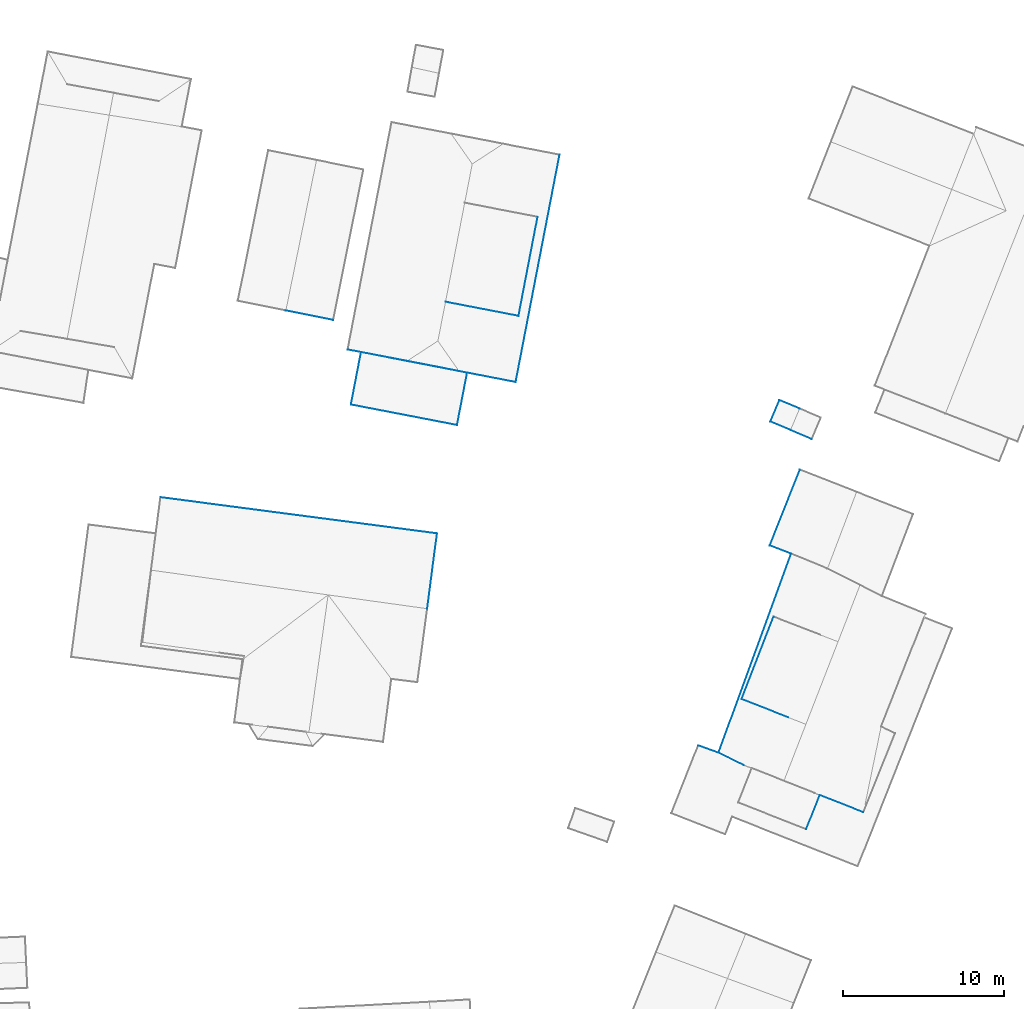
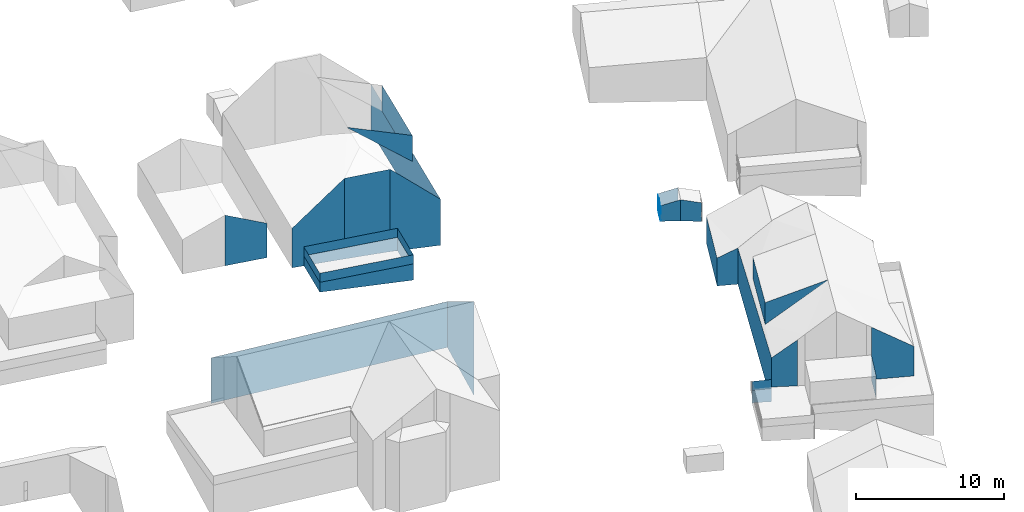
# Not in any storey, part 31 of 57: 36 walls.
"""IFC4 building model written with IfcOpenShell, lengths in metres."""

from ifc_helpers import new_model, entity, si_unit, converted_unit, frame, origin, place, context, subcontext, project, spatial, face_set, surface_model, element, save


model = new_model("IFC4")

# Units and contexts
model_context = context("Model", 3, precision=1e-05, world=origin())
body_context = subcontext(model_context, "Body", "Model", "MODEL_VIEW")
ifc_project = project(units=[converted_unit("PLANEANGLEUNIT", "DEGREE", entity("IfcRatioMeasure", 0.0174532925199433), si_unit("PLANEANGLEUNIT", "RADIAN"), dimensions=[0, 0, 0, 0, 0, 0, 0]), si_unit("AREAUNIT", "SQUARE_METRE"), si_unit("LENGTHUNIT", "METRE")], contexts=[model_context])

# Site, building
site_placement = place(None, origin())
site = spatial("IfcSite", under=ifc_project, at=site_placement, Name="_site")
building_1_placement = place(site_placement, origin())
building_1 = spatial("IfcBuilding", under=site, at=building_1_placement, Name="_building")

# Walls
wall_1_placement = place(building_1_placement, origin())
element("IfcWall", 1, at=wall_1_placement, inside=building_1, Name="Wall", PredefinedType="NOTDEFINED", context=body_context, shape_type="SurfaceModel", body=[
    surface_model("IfcFaceBasedSurfaceModel", [(247.115, 108.848, 116.72), (243.898, 109.473, 116.72), (243.898, 109.473, 110.073), (247.115, 108.848, 109.924)], [face_set([[[0, 1, 2, 3]]])]),
])
wall_2_placement = place(building_1_placement, origin())
element("IfcWall", 2, at=wall_2_placement, inside=building_1, Name="Wall", PredefinedType="NOTDEFINED", context=body_context, shape_type="SurfaceModel", body=[
    surface_model("IfcFaceBasedSurfaceModel", [(240.423, 106.773, 110.99), (241.049, 110.02, 110.99), (241.049, 110.02, 110.188), (240.423, 106.773, 110.184)], [face_set([[[0, 1, 2, 3]]])]),
])
wall_3_placement = place(building_1_placement, origin())
element("IfcWall", 3, at=wall_3_placement, inside=building_1, Name="Wall", PredefinedType="NOTDEFINED", context=body_context, shape_type="SurfaceModel", body=[
    surface_model("IfcFaceBasedSurfaceModel", [(247.623, 108.746, 110.99), (246.997, 105.499, 110.99), (246.997, 105.499, 109.654), (247.623, 108.746, 109.91)], [face_set([[[0, 1, 2, 3]]])]),
])
wall_4_placement = place(building_1_placement, origin())
element("IfcWall", 4, at=wall_4_placement, inside=building_1, Name="Wall", PredefinedType="NOTDEFINED", context=body_context, shape_type="SurfaceModel", body=[
    surface_model("IfcFaceBasedSurfaceModel", [(241.049, 110.02, 110.99), (247.623, 108.746, 110.99), (247.623, 108.746, 109.91), (241.049, 110.02, 110.188)], [face_set([[[0, 1, 2, 3]]])]),
])
wall_5_placement = place(building_1_placement, origin())
element("IfcWall", 5, at=wall_5_placement, inside=building_1, Name="Wall", PredefinedType="NOTDEFINED", context=body_context, shape_type="SurfaceModel", body=[
    surface_model("IfcFaceBasedSurfaceModel", [(250.807, 112.263, 116.15), (246.281, 113.141, 117.86), (246.281, 113.141, 117.81), (250.807, 112.263, 114.004)], [face_set([[[0, 1, 2, 3]]])]),
])
wall_6_placement = place(building_1_placement, origin())
element("IfcWall", 6, at=wall_6_placement, inside=building_1, Name="Wall", PredefinedType="NOTDEFINED", context=body_context, shape_type="SurfaceModel", body=[
    surface_model("IfcFaceBasedSurfaceModel", [(251.992, 118.399, 116.15), (250.807, 112.263, 116.15), (250.807, 112.263, 114.004), (251.992, 118.399, 114.013)], [face_set([[[0, 1, 2, 3]]])]),
])
wall_7_placement = place(building_1_placement, origin())
element("IfcWall", 7, at=wall_7_placement, inside=building_1, Name="Wall", PredefinedType="NOTDEFINED", context=body_context, shape_type="SurfaceModel", body=[
    surface_model("IfcFaceBasedSurfaceModel", [(246.997, 105.499, 110.99), (240.423, 106.773, 110.99), (240.423, 106.773, 110.184), (246.997, 105.499, 109.654)], [face_set([[[0, 1, 2, 3]]])]),
])
wall_8_placement = place(building_1_placement, origin())
element("IfcWall", 8, at=wall_8_placement, inside=building_1, Name="Wall", PredefinedType="NOTDEFINED", context=body_context, shape_type="SurfaceModel", body=[
    surface_model("IfcFaceBasedSurfaceModel", [(243.898, 109.473, 116.72), (240.222, 110.18, 113.45), (240.222, 110.18, 110.194), (243.898, 109.473, 110.073)], [face_set([[[0, 1, 2, 3]]])]),
])
wall_9_placement = place(building_1_placement, origin())
element("IfcWall", 9, at=wall_9_placement, inside=building_1, Name="Wall", PredefinedType="NOTDEFINED", context=body_context, shape_type="SurfaceModel", body=[
    surface_model("IfcFaceBasedSurfaceModel", [(250.631, 108.165, 113.45), (247.115, 108.848, 116.72), (247.115, 108.848, 109.924), (250.631, 108.165, 109.636)], [face_set([[[0, 1, 2, 3]]])]),
])
wall_10_placement = place(building_1_placement, origin())
element("IfcWall", 10, at=wall_10_placement, inside=building_1, Name="Wall", PredefinedType="NOTDEFINED", context=body_context, shape_type="SurfaceModel", body=[
    surface_model("IfcFaceBasedSurfaceModel", [(253.353, 122.25, 113.45), (250.631, 108.165, 113.45), (250.631, 108.165, 109.636), (253.353, 122.25, 109.508)], [face_set([[[0, 1, 2, 3]]])]),
])
wall_11_placement = place(building_1_placement, origin())
element("IfcWall", 11, at=wall_11_placement, inside=building_1, Name="Wall", PredefinedType="NOTDEFINED", context=body_context, shape_type="SurfaceModel", body=[
    surface_model("IfcFaceBasedSurfaceModel", [(240.423, 106.773, 110.99), (241.049, 110.02, 110.99), (241.049, 110.02, 111.74), (240.423, 106.773, 111.74)], [face_set([[[0, 1, 2, 3]]])]),
])
wall_12_placement = place(building_1_placement, origin())
element("IfcWall", 12, at=wall_12_placement, inside=building_1, Name="Wall", PredefinedType="NOTDEFINED", context=body_context, shape_type="SurfaceModel", body=[
    surface_model("IfcFaceBasedSurfaceModel", [(246.997, 105.499, 110.99), (240.423, 106.773, 110.99), (240.423, 106.773, 111.74), (246.997, 105.499, 111.74)], [face_set([[[0, 1, 2, 3]]])]),
])
wall_13_placement = place(building_1_placement, origin())
element("IfcWall", 13, at=wall_13_placement, inside=building_1, Name="Wall", PredefinedType="NOTDEFINED", context=body_context, shape_type="SurfaceModel", body=[
    surface_model("IfcFaceBasedSurfaceModel", [(247.623, 108.746, 110.99), (246.997, 105.499, 110.99), (246.997, 105.499, 111.74), (247.623, 108.746, 111.74)], [face_set([[[0, 1, 2, 3]]])]),
])
wall_14_placement = place(building_1_placement, origin())
element("IfcWall", 14, at=wall_14_placement, inside=building_1, Name="Wall", PredefinedType="NOTDEFINED", context=body_context, shape_type="SurfaceModel", body=[
    surface_model("IfcFaceBasedSurfaceModel", [(241.049, 110.02, 110.99), (247.623, 108.746, 110.99), (247.623, 108.746, 111.74), (241.049, 110.02, 111.74)], [face_set([[[0, 1, 2, 3]]])]),
])
wall_15_placement = place(building_1_placement, origin())
element("IfcWall", 15, at=wall_15_placement, inside=building_1, Name="Wall", PredefinedType="NOTDEFINED", context=body_context, shape_type="SurfaceModel", body=[
    surface_model("IfcFaceBasedSurfaceModel", [(247.623, 108.746, 110.99), (246.997, 105.499, 110.99), (246.997, 105.499, 111.74), (247.623, 108.746, 111.74)], [face_set([[[0, 1, 2, 3]]])]),
])
wall_16_placement = place(building_1_placement, origin())
element("IfcWall", 16, at=wall_16_placement, inside=building_1, Name="Wall", PredefinedType="NOTDEFINED", context=body_context, shape_type="SurfaceModel", body=[
    surface_model("IfcFaceBasedSurfaceModel", [(241.049, 110.02, 110.99), (247.623, 108.746, 110.99), (247.623, 108.746, 111.74), (241.049, 110.02, 111.74)], [face_set([[[0, 1, 2, 3]]])]),
])
wall_17_placement = place(building_1_placement, origin())
element("IfcWall", 17, at=wall_17_placement, inside=building_1, Name="Wall", PredefinedType="NOTDEFINED", context=body_context, shape_type="SurfaceModel", body=[
    surface_model("IfcFaceBasedSurfaceModel", [(240.423, 106.773, 110.99), (241.049, 110.02, 110.99), (241.049, 110.02, 111.74), (240.423, 106.773, 111.74)], [face_set([[[0, 1, 2, 3]]])]),
])
wall_18_placement = place(building_1_placement, origin())
element("IfcWall", 18, at=wall_18_placement, inside=building_1, Name="Wall", PredefinedType="NOTDEFINED", context=body_context, shape_type="SurfaceModel", body=[
    surface_model("IfcFaceBasedSurfaceModel", [(246.997, 105.499, 110.99), (240.423, 106.773, 110.99), (240.423, 106.773, 111.74), (246.997, 105.499, 111.74)], [face_set([[[0, 1, 2, 3]]])]),
])

# Building
building_2_placement = place(site_placement, origin())
building_2 = spatial("IfcBuilding", under=site, at=building_2_placement, Name="_building")

# Walls
wall_19_placement = place(building_2_placement, origin())
element("IfcWall", 19, at=wall_19_placement, inside=building_2, Name="Wall", PredefinedType="NOTDEFINED", context=body_context, shape_type="SurfaceModel", body=[
    surface_model("IfcFaceBasedSurfaceModel", [(245.759, 98.783, 112.39), (245.15, 94.125, 115.44), (245.15, 94.125, 107.674), (245.759, 98.783, 108.605)], [face_set([[[0, 1, 2, 3]]])]),
])
wall_20_placement = place(building_2_placement, origin())
element("IfcWall", 20, at=wall_20_placement, inside=building_2, Name="Wall", PredefinedType="NOTDEFINED", context=body_context, shape_type="SurfaceModel", body=[
    surface_model("IfcFaceBasedSurfaceModel", [(228.621, 101.025, 112.39), (245.759, 98.783, 112.39), (245.759, 98.783, 108.605), (228.621, 101.025, 108.623)], [face_set([[[0, 1, 2, 3]]])]),
])

# Building
building_3_placement = place(site_placement, origin())
building_3 = spatial("IfcBuilding", under=site, at=building_3_placement, Name="_building")

# Walls
wall_21_placement = place(building_3_placement, origin())
element("IfcWall", 21, at=wall_21_placement, inside=building_3, Name="Wall", PredefinedType="NOTDEFINED", context=body_context, shape_type="SurfaceModel", body=[
    surface_model("IfcFaceBasedSurfaceModel", [(272.181, 81.504, 109.92), (269.474, 82.568, 111.81), (269.474, 82.568, 107.48), (272.181, 81.504, 107.48)], [face_set([[[0, 1, 2, 3]]])]),
])
wall_22_placement = place(building_3_placement, origin())
element("IfcWall", 22, at=wall_22_placement, inside=building_3, Name="Wall", PredefinedType="NOTDEFINED", context=body_context, shape_type="SurfaceModel", body=[
    surface_model("IfcFaceBasedSurfaceModel", [(264.775, 84.429, 111.26), (263.202, 85.186, 109.89), (263.202, 85.186, 107.48), (264.775, 84.429, 107.48)], [face_set([[[0, 1, 2, 3]]])]),
])
wall_23_placement = place(building_3_placement, origin())
element("IfcWall", 23, at=wall_23_placement, inside=building_3, Name="Wall", PredefinedType="NOTDEFINED", context=body_context, shape_type="SurfaceModel", body=[
    surface_model("IfcFaceBasedSurfaceModel", [(263.202, 85.186, 109.89), (267.703, 97.529, 109.88), (267.703, 97.529, 106.9), (263.202, 85.186, 106.266)], [face_set([[[0, 1, 2, 3]]])]),
])
wall_24_placement = place(building_3_placement, origin())
element("IfcWall", 24, at=wall_24_placement, inside=building_3, Name="Wall", PredefinedType="NOTDEFINED", context=body_context, shape_type="SurfaceModel", body=[
    surface_model("IfcFaceBasedSurfaceModel", [(264.63, 88.515, 111.92), (266.611, 93.622, 111.92), (266.611, 93.622, 110.16), (264.63, 88.515, 110.121)], [face_set([[[0, 1, 2, 3]]])]),
])
wall_25_placement = place(building_3_placement, origin())
element("IfcWall", 25, at=wall_25_placement, inside=building_3, Name="Wall", PredefinedType="NOTDEFINED", context=body_context, shape_type="SurfaceModel", body=[
    surface_model("IfcFaceBasedSurfaceModel", [(268.616, 86.961, 113.35), (264.63, 88.515, 111.92), (264.63, 88.515, 110.121), (268.616, 86.961, 113.3)], [face_set([[[0, 1, 2, 3]]])]),
])
wall_26_placement = place(building_3_placement, origin())
element("IfcWall", 26, at=wall_26_placement, inside=building_3, Name="Wall", PredefinedType="NOTDEFINED", context=body_context, shape_type="SurfaceModel", body=[
    surface_model("IfcFaceBasedSurfaceModel", [(261.942, 85.646, 107.48), (263.202, 85.186, 107.48), (263.202, 85.186, 106.266), (261.942, 85.646, 106.333)], [face_set([[[0, 1, 2, 3]]])]),
])
wall_27_placement = place(building_3_placement, origin())
element("IfcWall", 27, at=wall_27_placement, inside=building_3, Name="Wall", PredefinedType="NOTDEFINED", context=body_context, shape_type="SurfaceModel", body=[
    surface_model("IfcFaceBasedSurfaceModel", [(269.474, 82.568, 109.51), (268.634, 80.447, 109.32), (268.634, 80.447, 107.48), (269.474, 82.568, 107.48)], [face_set([[[0, 1, 2, 3]]])]),
])
for number, where, name in (
    (28, (0.0, 0.0, 0.0), "Wall"),
    (29, (0.0, 0.0, 0.0), "Wall"),
):
    element("IfcWall", number, at=place(building_3_placement, frame(where)), inside=building_3, Name=name, PredefinedType="NOTDEFINED", context=body_context, shape_type="SurfaceModel", body=[
        surface_model("IfcFaceBasedSurfaceModel", [(263.202, 85.186, 107.35), (261.942, 85.646, 107.35), (261.942, 85.646, 108.1), (263.202, 85.186, 108.1)], [face_set([[[0, 1, 2, 3]]])]),
    ])

# Building
building_4_placement = place(site_placement, origin())
building_4 = spatial("IfcBuilding", under=site, at=building_4_placement, Name="_building")

# Walls
wall_28_placement = place(building_4_placement, origin())
element("IfcWall", 30, at=wall_28_placement, inside=building_4, Name="Wall", PredefinedType="NOTDEFINED", context=body_context, shape_type="SurfaceModel", body=[
    surface_model("IfcFaceBasedSurfaceModel", [(266.374, 98.041, 109.21), (268.245, 102.739, 109.21), (268.245, 102.739, 106.988), (266.374, 98.041, 106.908)], [face_set([[[0, 1, 2, 3]]])]),
])
wall_29_placement = place(building_4_placement, origin())
element("IfcWall", 31, at=wall_29_placement, inside=building_4, Name="Wall", PredefinedType="NOTDEFINED", context=body_context, shape_type="SurfaceModel", body=[
    surface_model("IfcFaceBasedSurfaceModel", [(267.703, 97.529, 109.88), (266.374, 98.041, 109.21), (266.374, 98.041, 106.908), (267.703, 97.529, 106.9)], [face_set([[[0, 1, 2, 3]]])]),
])

# Building
building_5_placement = place(site_placement, origin())
building_5 = spatial("IfcBuilding", under=site, at=building_5_placement, Name="_building")

# Wall
wall_30_placement = place(building_5_placement, origin())
element("IfcWall", 32, at=wall_30_placement, inside=building_5, Name="Wall", PredefinedType="NOTDEFINED", context=body_context, shape_type="SurfaceModel", body=[
    surface_model("IfcFaceBasedSurfaceModel", [(239.324, 112.012, 113.07), (236.386, 112.601, 114.42), (236.386, 112.601, 110.238), (239.324, 112.012, 110.241)], [face_set([[[0, 1, 2, 3]]])]),
])

# Building
building_6_placement = place(site_placement, origin())
building_6 = spatial("IfcBuilding", under=site, at=building_6_placement, Name="_building")

# Walls
wall_31_placement = place(building_6_placement, origin())
element("IfcWall", 33, at=wall_31_placement, inside=building_6, Name="Wall", PredefinedType="NOTDEFINED", context=body_context, shape_type="SurfaceModel", body=[
    surface_model("IfcFaceBasedSurfaceModel", [(266.976, 107.052, 108.85), (268.224, 106.523, 109.23), (268.224, 106.523, 107.461), (266.976, 107.052, 107.6)], [face_set([[[0, 1, 2, 3]]])]),
])
wall_32_placement = place(building_6_placement, origin())
element("IfcWall", 34, at=wall_32_placement, inside=building_6, Name="Wall", PredefinedType="NOTDEFINED", context=body_context, shape_type="SurfaceModel", body=[
    surface_model("IfcFaceBasedSurfaceModel", [(266.414, 105.724, 108.85), (266.976, 107.052, 108.85), (266.976, 107.052, 107.6), (266.414, 105.724, 107.568)], [face_set([[[0, 1, 2, 3]]])]),
])
wall_33_placement = place(building_6_placement, origin())
element("IfcWall", 35, at=wall_33_placement, inside=building_6, Name="Wall", PredefinedType="NOTDEFINED", context=body_context, shape_type="SurfaceModel", body=[
    surface_model("IfcFaceBasedSurfaceModel", [(267.662, 105.195, 109.23), (266.414, 105.724, 108.85), (266.414, 105.724, 107.568), (267.662, 105.195, 107.471)], [face_set([[[0, 1, 2, 3]]])]),
])
wall_34_placement = place(building_6_placement, origin())
element("IfcWall", 36, at=wall_34_placement, inside=building_6, Name="Wall", PredefinedType="NOTDEFINED", context=body_context, shape_type="SurfaceModel", body=[
    surface_model("IfcFaceBasedSurfaceModel", [(268.98, 104.634, 108.85), (267.662, 105.195, 109.23), (267.662, 105.195, 107.471), (268.98, 104.634, 107.324)], [face_set([[[0, 1, 2, 3]]])]),
])

save(model, "model.ifc")
